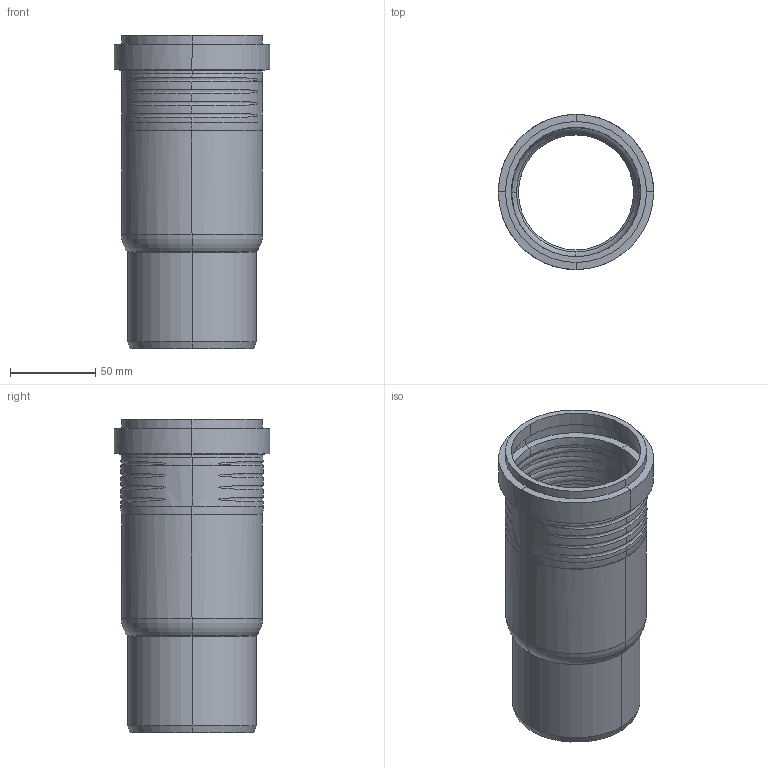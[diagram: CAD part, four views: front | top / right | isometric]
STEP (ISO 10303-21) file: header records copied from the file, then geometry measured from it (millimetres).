
FILE_DESCRIPTION(/* description */ (''),/* implementation_level */ '2;1');
FILE_NAME(/* name */ 'H:\Geberit-Teile\Export\Langmuffe PP\stp\393318.stp',/* time_stamp */ '2017-10-18T09:55:35+02:00',/* author */ ('seihe2'),/* organization */ (''),/* preprocessor_version */ 'ST-DEVELOPER v15.2',/* originating_system */ 'Autodesk Inventor 2014',/* authorisation */ '');
FILE_SCHEMA (('AUTOMOTIVE_DESIGN { 1 0 10303 214 3 1 1 }'));
Length unit declared in the file: millimetre
Products named in the file (1): 393318
Bounding box: 91.2 x 91.2 x 184 mm (x, y, z)
Volume: 163580 mm3; surface area: 95955.3 mm2
Topology: 1 solids, 1 shells, 134 faces, 303 edges, 167 vertices
Faces by surface type: bspline 52, cylinder 32, cone 24, torus 22, plane 4
Entity records: 7646 total; most frequent: CARTESIAN_POINT 4829, ORIENTED_EDGE 598, DIRECTION 487, EDGE_CURVE 299, AXIS2_PLACEMENT_3D 194, VERTEX_POINT 167, EDGE_LOOP 136, STYLED_ITEM 135
